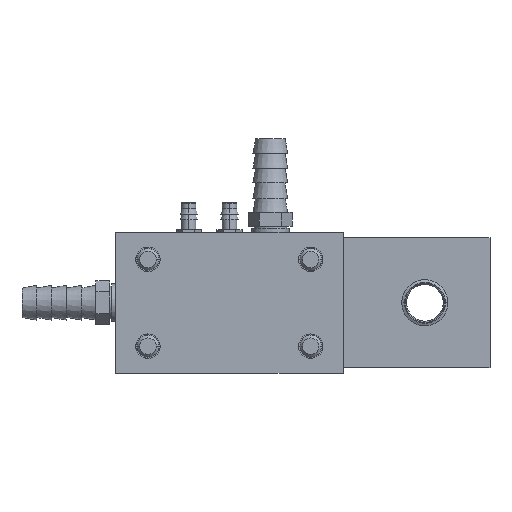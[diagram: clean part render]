
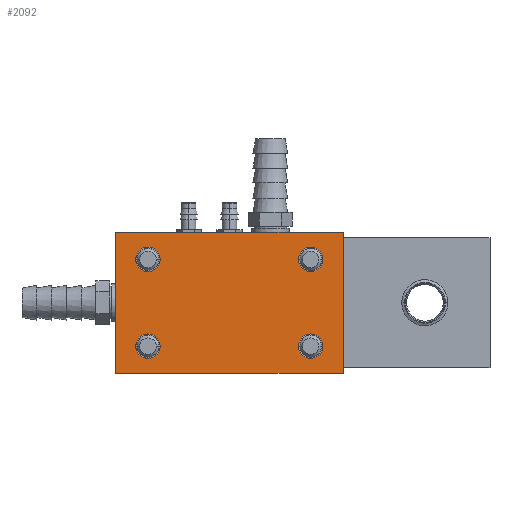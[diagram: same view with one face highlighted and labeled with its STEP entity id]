
A CAD part, left-side view. The second image highlights one B-rep face of the part: STEP entity #2092.
In plain terms, the highlighted planar face has unit normal (-1, 0, 0).
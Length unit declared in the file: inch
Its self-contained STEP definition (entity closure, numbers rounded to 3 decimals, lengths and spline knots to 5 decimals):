
#1827=CARTESIAN_POINT('',(-3.3125,-0.935,-0.5));
#1828=DIRECTION('',(1.,0.,0.));
#1829=DIRECTION('',(0.,-1.,0.));
#1830=AXIS2_PLACEMENT_3D('',#1827,#1828,#1829);
#1832=CARTESIAN_POINT('',(-3.3125,-0.935,-0.5));
#1833=DIRECTION('',(1.,0.,0.));
#1834=DIRECTION('',(0.,1.,0.));
#1835=AXIS2_PLACEMENT_3D('',#1832,#1833,#1834);
#1837=CARTESIAN_POINT('',(-3.3125,-0.935,0.5));
#1838=DIRECTION('',(1.,0.,0.));
#1839=DIRECTION('',(0.,-1.,0.));
#1840=AXIS2_PLACEMENT_3D('',#1837,#1838,#1839);
#1842=CARTESIAN_POINT('',(-3.3125,-0.935,0.5));
#1843=DIRECTION('',(1.,0.,0.));
#1844=DIRECTION('',(0.,1.,0.));
#1845=AXIS2_PLACEMENT_3D('',#1842,#1843,#1844);
#1847=CARTESIAN_POINT('',(-3.3125,0.94,-0.5));
#1848=DIRECTION('',(1.,0.,0.));
#1849=DIRECTION('',(0.,-1.,0.));
#1850=AXIS2_PLACEMENT_3D('',#1847,#1848,#1849);
#1852=CARTESIAN_POINT('',(-3.3125,0.94,-0.5));
#1853=DIRECTION('',(1.,0.,0.));
#1854=DIRECTION('',(0.,1.,0.));
#1855=AXIS2_PLACEMENT_3D('',#1852,#1853,#1854);
#1857=CARTESIAN_POINT('',(-3.3125,0.94,0.5));
#1858=DIRECTION('',(1.,0.,0.));
#1859=DIRECTION('',(0.,-1.,0.));
#1860=AXIS2_PLACEMENT_3D('',#1857,#1858,#1859);
#1862=CARTESIAN_POINT('',(-3.3125,0.94,0.5));
#1863=DIRECTION('',(1.,0.,0.));
#1864=DIRECTION('',(0.,1.,0.));
#1865=AXIS2_PLACEMENT_3D('',#1862,#1863,#1864);
#1895=DIRECTION('',(0.,-1.,0.));
#1896=VECTOR('',#1895,2.625);
#1897=CARTESIAN_POINT('',(-3.3125,1.315,0.8125));
#1898=LINE('',#1897,#1896);
#1903=DIRECTION('',(0.,0.,-1.));
#1904=VECTOR('',#1903,1.625);
#1905=CARTESIAN_POINT('',(-3.3125,-1.31,0.8125));
#1906=LINE('',#1905,#1904);
#1915=DIRECTION('',(0.,1.,0.));
#1916=VECTOR('',#1915,2.625);
#1917=CARTESIAN_POINT('',(-3.3125,-1.31,-0.8125));
#1918=LINE('',#1917,#1916);
#1931=DIRECTION('',(0.,0.,1.));
#1932=VECTOR('',#1931,1.625);
#1933=CARTESIAN_POINT('',(-3.3125,1.315,-0.8125));
#1934=LINE('',#1933,#1932);
#1945=CARTESIAN_POINT('',(-3.3125,1.315,-0.8125));
#1946=VERTEX_POINT('',#1945);
#1947=CARTESIAN_POINT('',(-3.3125,1.315,0.8125));
#1948=VERTEX_POINT('',#1947);
#1951=CARTESIAN_POINT('',(-3.3125,-1.31,-0.8125));
#1952=VERTEX_POINT('',#1951);
#1953=CARTESIAN_POINT('',(-3.3125,-1.31,0.8125));
#1954=VERTEX_POINT('',#1953);
#1955=CARTESIAN_POINT('',(-3.3125,-1.07563,-0.5));
#1957=VERTEX_POINT('',#1955);
#1959=CARTESIAN_POINT('',(-3.3125,-0.79438,-0.5));
#1961=VERTEX_POINT('',#1959);
#1963=CARTESIAN_POINT('',(-3.3125,-1.07563,0.5));
#1965=VERTEX_POINT('',#1963);
#1967=CARTESIAN_POINT('',(-3.3125,-0.79438,0.5));
#1969=VERTEX_POINT('',#1967);
#1971=CARTESIAN_POINT('',(-3.3125,0.79938,-0.5));
#1973=VERTEX_POINT('',#1971);
#1975=CARTESIAN_POINT('',(-3.3125,1.08063,-0.5));
#1977=VERTEX_POINT('',#1975);
#1979=CARTESIAN_POINT('',(-3.3125,0.79938,0.5));
#1981=VERTEX_POINT('',#1979);
#1983=CARTESIAN_POINT('',(-3.3125,1.08063,0.5));
#1985=VERTEX_POINT('',#1983);
#2055=CARTESIAN_POINT('',(-3.3125,0.0025,0.));
#2056=DIRECTION('',(-1.,0.,0.));
#2057=DIRECTION('',(0.,1.,0.));
#2058=AXIS2_PLACEMENT_3D('',#2055,#2056,#2057);
#2059=PLANE('',#2058);
#2061=ORIENTED_EDGE('',*,*,#2060,.T.);
#2063=ORIENTED_EDGE('',*,*,#2062,.T.);
#2065=ORIENTED_EDGE('',*,*,#2064,.T.);
#2067=ORIENTED_EDGE('',*,*,#2066,.T.);
#2068=EDGE_LOOP('',(#2061,#2063,#2065,#2067));
#2069=FACE_OUTER_BOUND('',#2068,.F.);
#2071=ORIENTED_EDGE('',*,*,#2070,.F.);
#2073=ORIENTED_EDGE('',*,*,#2072,.F.);
#2074=EDGE_LOOP('',(#2071,#2073));
#2075=FACE_BOUND('',#2074,.F.);
#2077=ORIENTED_EDGE('',*,*,#2076,.F.);
#2079=ORIENTED_EDGE('',*,*,#2078,.F.);
#2080=EDGE_LOOP('',(#2077,#2079));
#2081=FACE_BOUND('',#2080,.F.);
#2083=ORIENTED_EDGE('',*,*,#2082,.F.);
#2085=ORIENTED_EDGE('',*,*,#2084,.F.);
#2086=EDGE_LOOP('',(#2083,#2085));
#2087=FACE_BOUND('',#2086,.F.);
#2088=ORIENTED_EDGE('',*,*,#1996,.F.);
#2089=ORIENTED_EDGE('',*,*,#2049,.F.);
#2090=EDGE_LOOP('',(#2088,#2089));
#2091=FACE_BOUND('',#2090,.F.);
#1831=CIRCLE('',#1830,0.14063);
#1836=CIRCLE('',#1835,0.14063);
#1841=CIRCLE('',#1840,0.14063);
#1846=CIRCLE('',#1845,0.14063);
#1851=CIRCLE('',#1850,0.14063);
#1856=CIRCLE('',#1855,0.14063);
#1861=CIRCLE('',#1860,0.14063);
#1866=CIRCLE('',#1865,0.14063);
#1996=EDGE_CURVE('',#1957,#1961,#1831,.T.);
#2049=EDGE_CURVE('',#1961,#1957,#1836,.T.);
#2060=EDGE_CURVE('',#1948,#1954,#1898,.T.);
#2062=EDGE_CURVE('',#1954,#1952,#1906,.T.);
#2064=EDGE_CURVE('',#1952,#1946,#1918,.T.);
#2066=EDGE_CURVE('',#1946,#1948,#1934,.T.);
#2070=EDGE_CURVE('',#1965,#1969,#1841,.T.);
#2072=EDGE_CURVE('',#1969,#1965,#1846,.T.);
#2076=EDGE_CURVE('',#1973,#1977,#1851,.T.);
#2078=EDGE_CURVE('',#1977,#1973,#1856,.T.);
#2082=EDGE_CURVE('',#1981,#1985,#1861,.T.);
#2084=EDGE_CURVE('',#1985,#1981,#1866,.T.);
#2092=ADVANCED_FACE('',(#2069,#2075,#2081,#2087,#2091),#2059,.T.);
